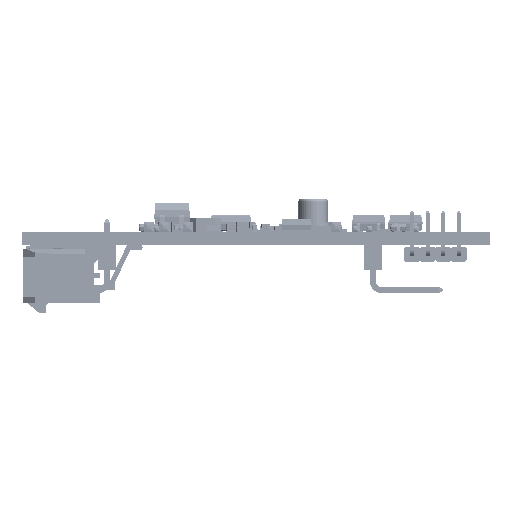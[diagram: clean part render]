
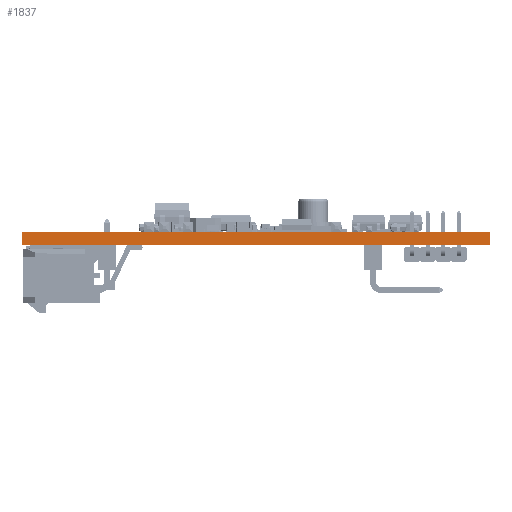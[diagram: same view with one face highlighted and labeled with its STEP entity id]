
A CAD part, left-side view. The second image highlights one B-rep face of the part: STEP entity #1837.
In plain terms, the highlighted planar face has unit normal (-1, 0, 0).
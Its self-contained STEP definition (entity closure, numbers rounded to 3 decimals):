
#1289 = EDGE_CURVE('',#1290,#1292,#1294,.T.);
#1290 = VERTEX_POINT('',#1291);
#1291 = CARTESIAN_POINT('',(0.,0.,0.));
#1292 = VERTEX_POINT('',#1293);
#1293 = CARTESIAN_POINT('',(0.,0.,1.646));
#1294 = LINE('',#1295,#1296);
#1295 = CARTESIAN_POINT('',(0.,0.,0.));
#1296 = VECTOR('',#1297,1.);
#1297 = DIRECTION('',(0.,0.,1.));
#1812 = VERTEX_POINT('',#1813);
#1813 = CARTESIAN_POINT('',(0.,60.,1.646));
#1819 = EDGE_CURVE('',#1820,#1812,#1822,.T.);
#1820 = VERTEX_POINT('',#1821);
#1821 = CARTESIAN_POINT('',(0.,60.,0.));
#1822 = LINE('',#1823,#1824);
#1823 = CARTESIAN_POINT('',(0.,60.,0.));
#1824 = VECTOR('',#1825,1.);
#1825 = DIRECTION('',(0.,0.,1.));
#1837 = ADVANCED_FACE('',(#1838),#1854,.F.);
#1838 = FACE_BOUND('',#1839,.F.);
#1839 = EDGE_LOOP('',(#1840,#1841,#1847,#1848));
#1840 = ORIENTED_EDGE('',*,*,#1819,.T.);
#1841 = ORIENTED_EDGE('',*,*,#1842,.T.);
#1842 = EDGE_CURVE('',#1812,#1292,#1843,.T.);
#1843 = LINE('',#1844,#1845);
#1844 = CARTESIAN_POINT('',(0.,60.,1.646));
#1845 = VECTOR('',#1846,1.);
#1846 = DIRECTION('',(0.,-1.,0.));
#1847 = ORIENTED_EDGE('',*,*,#1289,.F.);
#1848 = ORIENTED_EDGE('',*,*,#1849,.F.);
#1849 = EDGE_CURVE('',#1820,#1290,#1850,.T.);
#1850 = LINE('',#1851,#1852);
#1851 = CARTESIAN_POINT('',(0.,60.,0.));
#1852 = VECTOR('',#1853,1.);
#1853 = DIRECTION('',(0.,-1.,0.));
#1854 = PLANE('',#1855);
#1855 = AXIS2_PLACEMENT_3D('',#1856,#1857,#1858);
#1856 = CARTESIAN_POINT('',(0.,60.,0.));
#1857 = DIRECTION('',(1.,0.,0.));
#1858 = DIRECTION('',(0.,-1.,0.));
